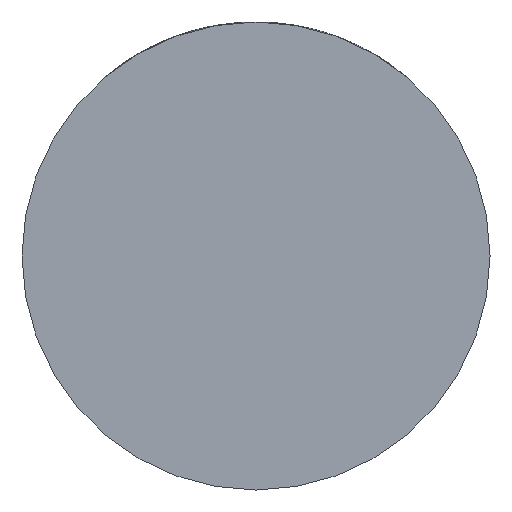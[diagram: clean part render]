
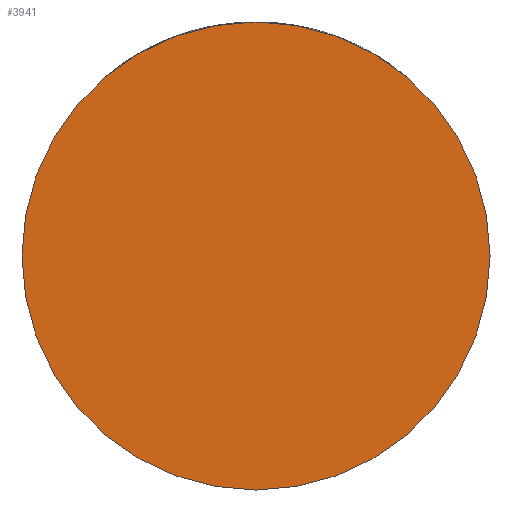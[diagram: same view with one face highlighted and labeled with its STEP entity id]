
A CAD part, front view. The second image highlights one B-rep face of the part: STEP entity #3941.
In plain terms, the highlighted planar face has unit normal (0, -1, 0).
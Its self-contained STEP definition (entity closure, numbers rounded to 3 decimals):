
#314 = CARTESIAN_POINT ( 'NONE',  ( 0., -36., 0. ) ) ;
#335 = DIRECTION ( 'NONE',  ( 0., -1., 0. ) ) ;
#501 = DIRECTION ( 'NONE',  ( 1., 0., 0. ) ) ;
#523 = CARTESIAN_POINT ( 'NONE',  ( 0., -36., 0. ) ) ;
#549 = VERTEX_POINT ( 'NONE', #1094 ) ;
#818 = DIRECTION ( 'NONE',  ( 1., 0., 0. ) ) ;
#865 = FACE_OUTER_BOUND ( 'NONE', #1787, .T. ) ;
#1040 = ORIENTED_EDGE ( 'NONE', *, *, #2360, .T. ) ;
#1094 = CARTESIAN_POINT ( 'NONE',  ( -39., -36., 0. ) ) ;
#1581 = AXIS2_PLACEMENT_3D ( 'NONE', #2649, #4000, #818 ) ;
#1698 = EDGE_CURVE ( 'NONE', #4220, #549, #3942, .T. ) ;
#1787 = EDGE_LOOP ( 'NONE', ( #1040, #1803 ) ) ;
#1803 = ORIENTED_EDGE ( 'NONE', *, *, #1698, .T. ) ;
#1917 = DIRECTION ( 'NONE',  ( 0., -1., 0. ) ) ;
#2182 = AXIS2_PLACEMENT_3D ( 'NONE', #314, #335, #3143 ) ;
#2263 = PLANE ( 'NONE',  #4319 ) ;
#2360 = EDGE_CURVE ( 'NONE', #549, #4220, #3563, .T. ) ;
#2649 = CARTESIAN_POINT ( 'NONE',  ( 0., -36., 0. ) ) ;
#3143 = DIRECTION ( 'NONE',  ( 1., 0., 0. ) ) ;
#3563 = CIRCLE ( 'NONE', #1581, 39. ) ;
#3941 = ADVANCED_FACE ( 'NONE', ( #865 ), #2263, .T. ) ;
#3942 = CIRCLE ( 'NONE', #2182, 39. ) ;
#4000 = DIRECTION ( 'NONE',  ( 0., -1., 0. ) ) ;
#4220 = VERTEX_POINT ( 'NONE', #4494 ) ;
#4319 = AXIS2_PLACEMENT_3D ( 'NONE', #523, #1917, #501 ) ;
#4494 = CARTESIAN_POINT ( 'NONE',  ( 39., -36., 0. ) ) ;
